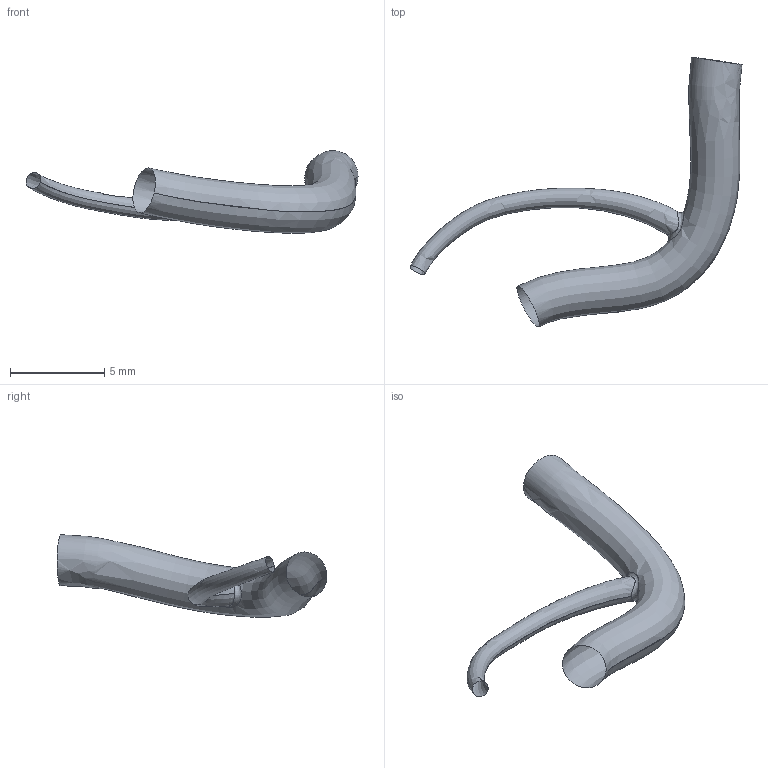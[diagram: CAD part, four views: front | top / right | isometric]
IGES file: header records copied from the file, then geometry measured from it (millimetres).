
Global section: file name: C:\Documents and Settings\Administrator\Desktop\FDA-Pig\Domestic RCA\Pig_000010\avc.ed.igs; native system: Rhinoceros ( May 19 2006 ); preprocessor: Trout Lake IGES 012 May 19 2006; date: 111205.185501; units: centimetre
Bounding box: 17.62 x 14.32 x 4.38 mm (x, y, z)
Surface area: 210.6 mm2 (no closed solid volume)
Topology: 0 solids, 0 shells, 3 faces, 33 edges, 30 vertices
Faces by surface type: bspline 3
